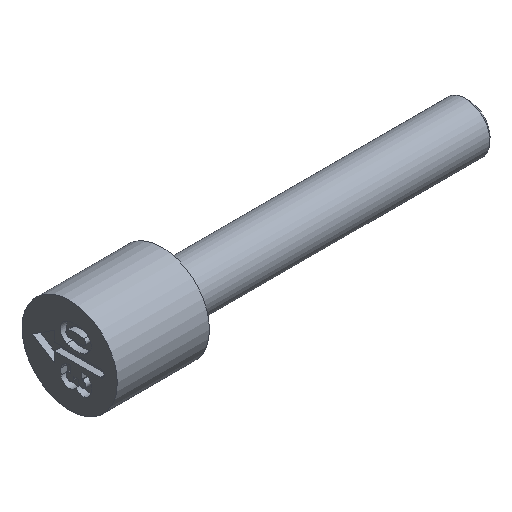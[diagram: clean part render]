
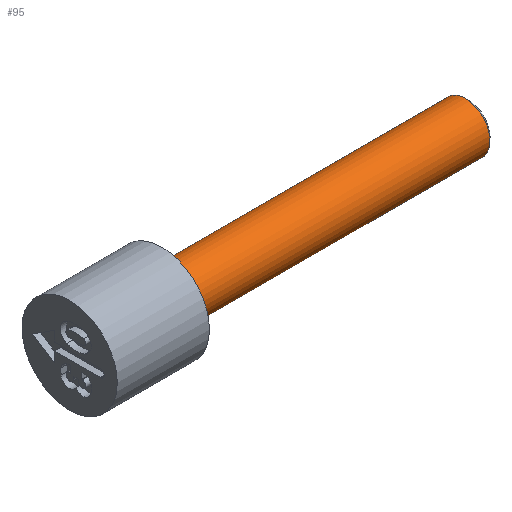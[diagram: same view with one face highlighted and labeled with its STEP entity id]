
A CAD part, isometric view. The second image highlights one B-rep face of the part: STEP entity #95.
In plain terms, the highlighted cylindrical face has radius 0.8 mm (diameter 1.6 mm), a full revolution.
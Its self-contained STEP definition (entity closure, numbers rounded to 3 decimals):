
#95 = ADVANCED_FACE( '', ( #164, #165 ), #166, .T. );
#164 = FACE_OUTER_BOUND( '', #256, .T. );
#165 = FACE_OUTER_BOUND( '', #257, .T. );
#166 = CYLINDRICAL_SURFACE( '', #258, 0.8 );
#256 = EDGE_LOOP( '', ( #467 ) );
#257 = EDGE_LOOP( '', ( #468 ) );
#258 = AXIS2_PLACEMENT_3D( '', #469, #470, #471 );
#467 = ORIENTED_EDGE( '', *, *, #694, .F. );
#468 = ORIENTED_EDGE( '', *, *, #695, .T. );
#469 = CARTESIAN_POINT( '', ( 10., 0., 0. ) );
#470 = DIRECTION( '', ( -1., 0., 0. ) );
#471 = DIRECTION( '', ( 0., 0., -1. ) );
#694 = EDGE_CURVE( '', #845, #845, #846, .T. );
#695 = EDGE_CURVE( '', #847, #847, #848, .T. );
#845 = VERTEX_POINT( '', #1056 );
#846 = CIRCLE( '', #1057, 0.8 );
#847 = VERTEX_POINT( '', #1058 );
#848 = CIRCLE( '', #1059, 0.8 );
#1056 = CARTESIAN_POINT( '', ( 9.878, 0., -0.8 ) );
#1057 = AXIS2_PLACEMENT_3D( '', #1247, #1248, #1249 );
#1058 = CARTESIAN_POINT( '', ( 0., 0., -0.8 ) );
#1059 = AXIS2_PLACEMENT_3D( '', #1250, #1251, #1252 );
#1247 = CARTESIAN_POINT( '', ( 9.878, 0., 0. ) );
#1248 = DIRECTION( '', ( 1., 0., 0. ) );
#1249 = DIRECTION( '', ( 0., 0., -1. ) );
#1250 = CARTESIAN_POINT( '', ( 0., 0., 0. ) );
#1251 = DIRECTION( '', ( 1., 0., 0. ) );
#1252 = DIRECTION( '', ( 0., 0., -1. ) );
